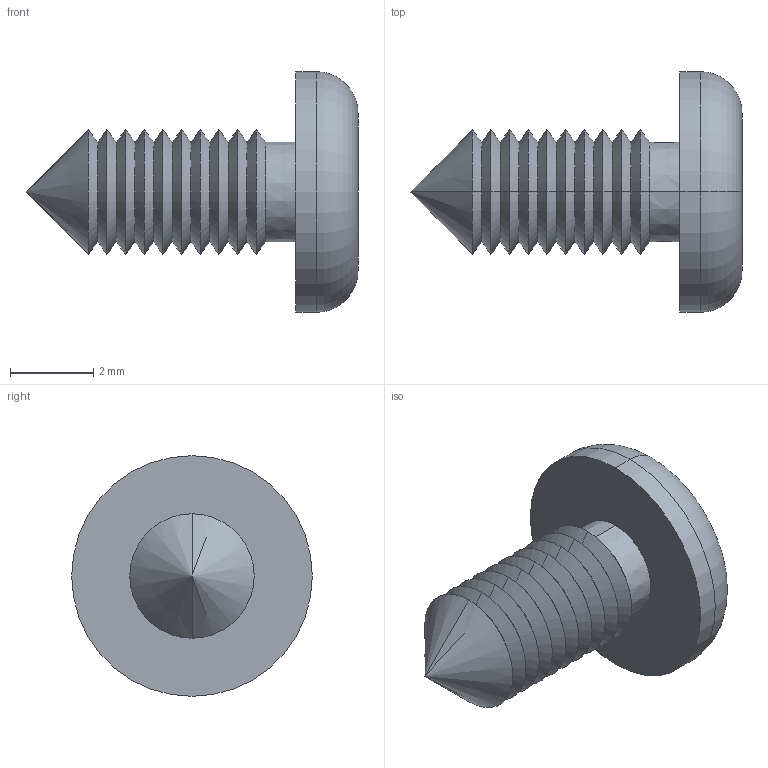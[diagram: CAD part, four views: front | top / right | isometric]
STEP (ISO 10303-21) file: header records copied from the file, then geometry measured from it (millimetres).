
FILE_DESCRIPTION (( 'STEP AP214' ), '1' );
FILE_NAME ('Cargol 2,9x 6,5 PP109.STEP', '2018-03-23T11:35:08', ( 'aaa' ), ( '' ), 'SwSTEP 2.0', 'SolidWorks 2013', '' );
FILE_SCHEMA (( 'AUTOMOTIVE_DESIGN' ));
Length unit declared in the file: millimetre
Products named in the file (1): Cargol 2,9x 6,5 PP109
Bounding box: 8 x 5.8 x 5.8 mm (x, y, z)
Volume: 66.6 mm3; surface area: 146.8 mm2
Topology: 1 solids, 1 shells, 61 faces, 132 edges, 73 vertices
Faces by surface type: cone 42, plane 15, torus 2, cylinder 2
Entity records: 1640 total; most frequent: DIRECTION 304, CARTESIAN_POINT 265, ORIENTED_EDGE 260, EDGE_CURVE 130, AXIS2_PLACEMENT_3D 112, VECTOR 80, LINE 80, VERTEX_POINT 73
